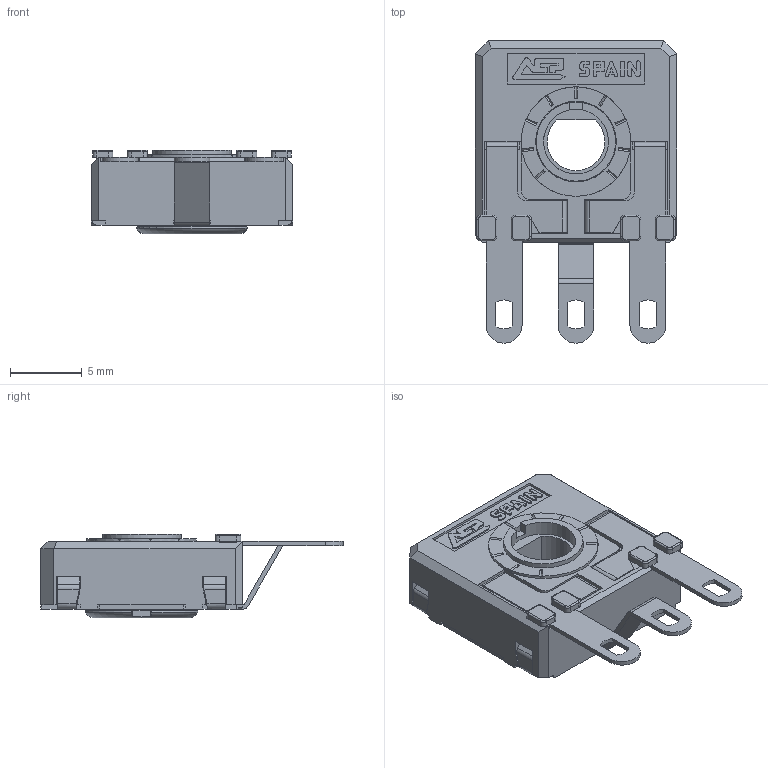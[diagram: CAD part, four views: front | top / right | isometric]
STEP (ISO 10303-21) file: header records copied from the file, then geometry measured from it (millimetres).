
FILE_DESCRIPTION(/* description */ (''),/* implementation_level */ '2;1');
FILE_NAME(/* name */ '\\SERVERACP\intercambio\Ignacio Santa Cecilia\Nueva WEB 2025\CA14 - CE14\CA14FHC0 RT-RO.stp',/* time_stamp */ '2025-06-12T09:48:22+02:00',/* author */ ('CEM'),/* organization */ (''),/* preprocessor_version */ 'ST-DEVELOPER v17',/* originating_system */ 'Autodesk Inventor 2018',/* authorisation */ '');
FILE_SCHEMA (('AUTOMOTIVE_DESIGN { 1 0 10303 214 3 1 1 }'));
Length unit declared in the file: millimetre
Products named in the file (1): CARCASA CA14 PGA
Bounding box: 14 x 21 x 5.8 mm (x, y, z)
Volume: 533.5 mm3; surface area: 1489.4 mm2
Topology: 1 solids, 1 shells, 655 faces, 1849 edges, 1190 vertices
Faces by surface type: plane 475, cylinder 143, torus 23, bspline 8, cone 6
Full cylindrical faces by diameter (mm): 4.5 x1, 5.5 x1, 5.6 x1, 5.752 x1, 6.8 x1, 7.6 x1
Entity records: 21411 total; most frequent: CARTESIAN_POINT 3992, ORIENTED_EDGE 3698, DIRECTION 3472, EDGE_CURVE 1849, LINE 1432, VECTOR 1432, VERTEX_POINT 1190, AXIS2_PLACEMENT_3D 1020
